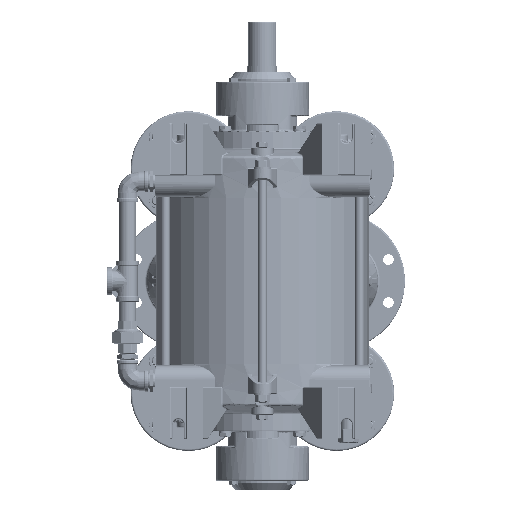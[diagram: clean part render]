
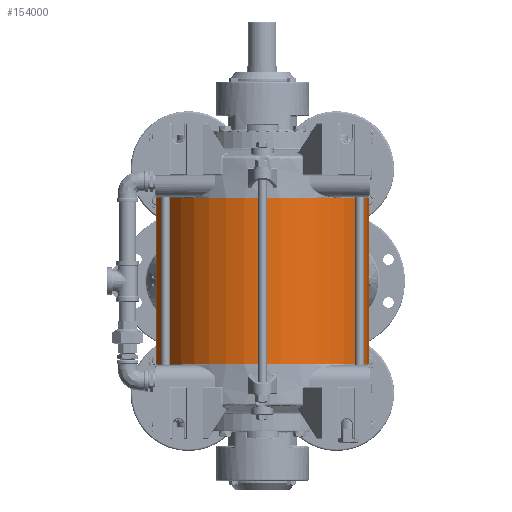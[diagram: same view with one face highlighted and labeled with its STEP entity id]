
A CAD part, front view. The second image highlights one B-rep face of the part: STEP entity #154000.
In plain terms, the highlighted cylindrical face has radius 171 mm (diameter 342 mm), a partial arc.
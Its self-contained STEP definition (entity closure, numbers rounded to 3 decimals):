
#1617 = VERTEX_POINT ( 'NONE', #200270 ) ;
#3130 = FACE_OUTER_BOUND ( 'NONE', #206524, .T. ) ;
#14000 = LINE ( 'NONE', #68302, #177150 ) ;
#20735 = EDGE_CURVE ( 'NONE', #197258, #237623, #239353, .T. ) ;
#25743 = EDGE_CURVE ( 'NONE', #167877, #237623, #227131, .T. ) ;
#28783 = CARTESIAN_POINT ( 'NONE',  ( 1046.806, 305.192, -847.482 ) ) ;
#43106 = AXIS2_PLACEMENT_3D ( 'NONE', #54878, #208563, #189707 ) ;
#44380 = ORIENTED_EDGE ( 'NONE', *, *, #25743, .T. ) ;
#48957 = ORIENTED_EDGE ( 'NONE', *, *, #158445, .T. ) ;
#49383 = AXIS2_PLACEMENT_3D ( 'NONE', #224070, #186294, #203937 ) ;
#51838 = DIRECTION ( 'NONE',  ( 0., 0., -1. ) ) ;
#52513 = DIRECTION ( 'NONE',  ( 1., 0., 0. ) ) ;
#54878 = CARTESIAN_POINT ( 'NONE',  ( 875.806, 305.192, -581.982 ) ) ;
#66831 = DIRECTION ( 'NONE',  ( 0., 0., -1. ) ) ;
#68302 = CARTESIAN_POINT ( 'NONE',  ( 704.806, 305.192, -581.982 ) ) ;
#68606 = EDGE_CURVE ( 'NONE', #1617, #197258, #149975, .T. ) ;
#92870 = DIRECTION ( 'NONE',  ( 0., 0., 1. ) ) ;
#96401 = VECTOR ( 'NONE', #66831, 1000. ) ;
#105909 = CARTESIAN_POINT ( 'NONE',  ( 1046.806, 305.192, -581.982 ) ) ;
#116584 = CYLINDRICAL_SURFACE ( 'NONE', #43106, 171. ) ;
#134588 = AXIS2_PLACEMENT_3D ( 'NONE', #188536, #92870, #52513 ) ;
#149975 = CIRCLE ( 'NONE', #49383, 171. ) ;
#154000 = ADVANCED_FACE ( 'NONE', ( #3130 ), #116584, .T. ) ;
#158445 = EDGE_CURVE ( 'NONE', #1617, #167877, #14000, .T. ) ;
#164249 = CARTESIAN_POINT ( 'NONE',  ( 704.806, 305.192, -847.482 ) ) ;
#167877 = VERTEX_POINT ( 'NONE', #164249 ) ;
#177150 = VECTOR ( 'NONE', #51838, 1000. ) ;
#186294 = DIRECTION ( 'NONE',  ( 0., 0., 1. ) ) ;
#188536 = CARTESIAN_POINT ( 'NONE',  ( 875.806, 305.192, -847.482 ) ) ;
#189707 = DIRECTION ( 'NONE',  ( -1., 0., 0. ) ) ;
#197258 = VERTEX_POINT ( 'NONE', #230756 ) ;
#200270 = CARTESIAN_POINT ( 'NONE',  ( 704.806, 305.192, -581.982 ) ) ;
#203937 = DIRECTION ( 'NONE',  ( 1., 0., 0. ) ) ;
#206524 = EDGE_LOOP ( 'NONE', ( #236108, #226485, #48957, #44380 ) ) ;
#208563 = DIRECTION ( 'NONE',  ( 0., 0., -1. ) ) ;
#224070 = CARTESIAN_POINT ( 'NONE',  ( 875.806, 305.192, -581.982 ) ) ;
#226485 = ORIENTED_EDGE ( 'NONE', *, *, #68606, .F. ) ;
#227131 = CIRCLE ( 'NONE', #134588, 171. ) ;
#230756 = CARTESIAN_POINT ( 'NONE',  ( 1046.806, 305.192, -581.982 ) ) ;
#236108 = ORIENTED_EDGE ( 'NONE', *, *, #20735, .F. ) ;
#237623 = VERTEX_POINT ( 'NONE', #28783 ) ;
#239353 = LINE ( 'NONE', #105909, #96401 ) ;
